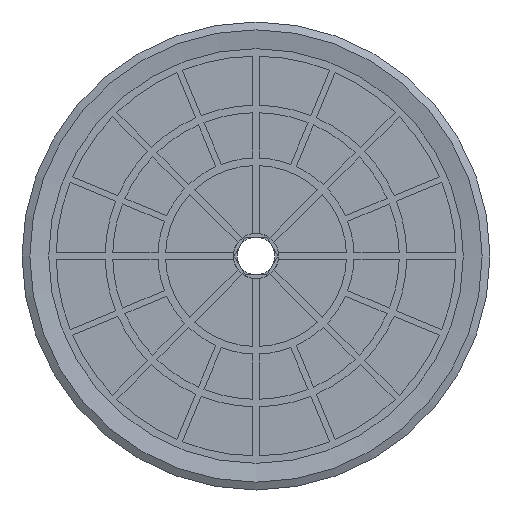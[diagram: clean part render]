
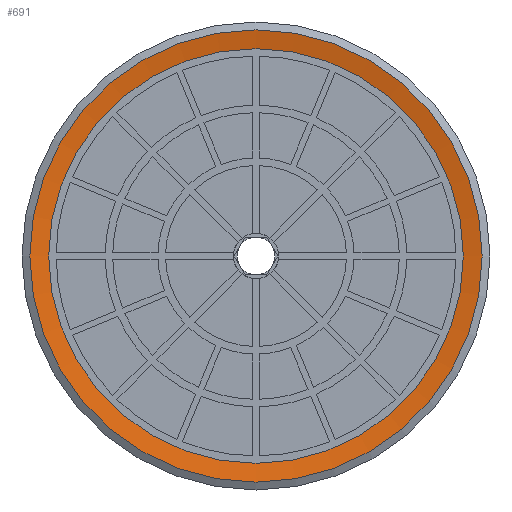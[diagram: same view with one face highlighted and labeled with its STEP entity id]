
A CAD part, front view. The second image highlights one B-rep face of the part: STEP entity #691.
In plain terms, the highlighted conical face has half-angle 80 degrees and reference radius 15 mm.
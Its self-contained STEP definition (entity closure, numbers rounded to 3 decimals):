
#691=ADVANCED_FACE('',(#1322,#1323),#1324,.F.);
#1322=FACE_BOUND('',#2202,.T.);
#1323=FACE_OUTER_BOUND('',#2203,.T.);
#1324=CONICAL_SURFACE('',#2204,15.0,1.396);
#2202=EDGE_LOOP('',(#4275));
#2203=EDGE_LOOP('',(#4276));
#2204=AXIS2_PLACEMENT_3D('',#4277,#4278,#4279);
#4275=ORIENTED_EDGE('',*,*,#6098,.T.);
#4276=ORIENTED_EDGE('',*,*,#6248,.F.);
#4277=CARTESIAN_POINT('',(0.0,0.,0.));
#4278=DIRECTION('',(0.0,0.,-1.0));
#4279=DIRECTION('',(0.0,1.0,0.));
#6098=EDGE_CURVE('',#7250,#7250,#7251,.T.);
#6248=EDGE_CURVE('',#7500,#7500,#7501,.T.);
#7250=VERTEX_POINT('',#9212);
#7251=CIRCLE('',#9213,13.75);
#7500=VERTEX_POINT('',#9550);
#7501=CIRCLE('',#9551,15.0);
#9212=CARTESIAN_POINT('',(0.0,-13.75,0.22));
#9213=AXIS2_PLACEMENT_3D('',#11087,#11088,#11089);
#9550=CARTESIAN_POINT('',(0.0,-15.0,0.));
#9551=AXIS2_PLACEMENT_3D('',#11361,#11362,#11363);
#11087=CARTESIAN_POINT('',(0.0,0.,0.22));
#11088=DIRECTION('',(0.0,0.,1.0));
#11089=DIRECTION('',(0.0,-1.0,0.));
#11361=CARTESIAN_POINT('',(0.0,0.,0.));
#11362=DIRECTION('',(0.0,0.,1.0));
#11363=DIRECTION('',(0.0,-1.0,0.));
